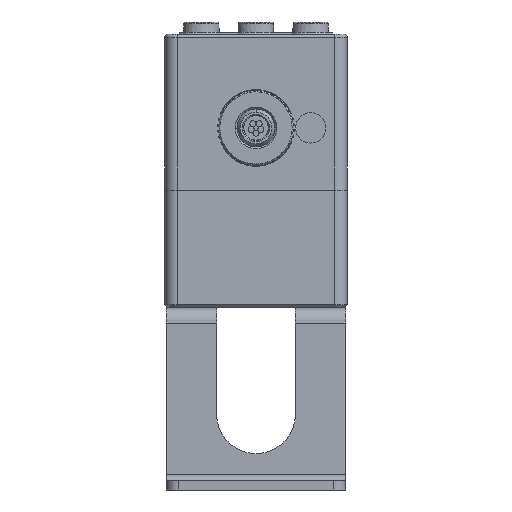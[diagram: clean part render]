
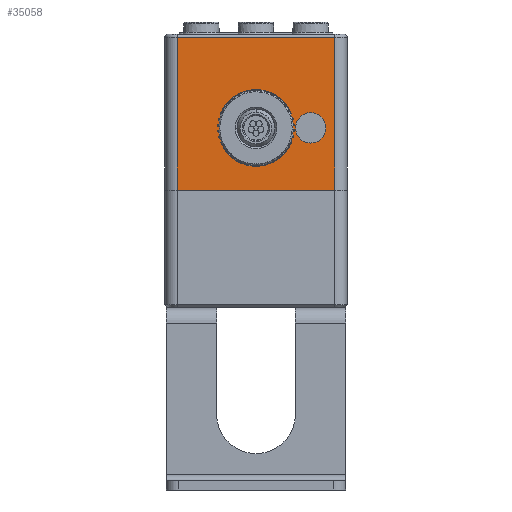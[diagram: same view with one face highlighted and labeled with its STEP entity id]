
A CAD part, front view. The second image highlights one B-rep face of the part: STEP entity #35058.
In plain terms, the highlighted planar face has unit normal (0, -1, 0).
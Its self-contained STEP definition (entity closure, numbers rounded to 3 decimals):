
#7877=DIRECTION('',(1.,0.,0.));
#7878=VECTOR('',#7877,26.);
#7879=CARTESIAN_POINT('',(-13.,-15.,4.5));
#7880=LINE('',#7879,#7878);
#7881=DIRECTION('',(0.,0.,-1.));
#7882=VECTOR('',#7881,25.2);
#7883=CARTESIAN_POINT('',(-13.,-15.,29.7));
#7884=LINE('',#7883,#7882);
#7885=DIRECTION('',(1.,0.,0.));
#7886=VECTOR('',#7885,26.);
#7887=CARTESIAN_POINT('',(-13.,-15.,29.7));
#7888=LINE('',#7887,#7886);
#7889=DIRECTION('',(0.,0.,-1.));
#7890=VECTOR('',#7889,25.2);
#7891=CARTESIAN_POINT('',(13.,-15.,29.7));
#7892=LINE('',#7891,#7890);
#7893=CARTESIAN_POINT('',(0.,-15.,14.75));
#7894=DIRECTION('',(0.,-1.,0.));
#7895=DIRECTION('',(-0.898,0.,-0.44));
#7896=AXIS2_PLACEMENT_3D('',#7893,#7894,#7895);
#7898=DIRECTION('',(-0.017,0.,-1.));
#7899=VECTOR('',#7898,2.35);
#7900=CARTESIAN_POINT('',(5.8,-15.,14.75));
#7901=LINE('',#7900,#7899);
#7902=DIRECTION('',(0.017,0.,-1.));
#7903=VECTOR('',#7902,2.35);
#7904=CARTESIAN_POINT('',(5.759,-15.,17.1));
#7905=LINE('',#7904,#7903);
#7906=CARTESIAN_POINT('',(0.,-15.,14.75));
#7907=DIRECTION('',(0.,-1.,0.));
#7908=DIRECTION('',(0.898,0.,0.44));
#7909=AXIS2_PLACEMENT_3D('',#7906,#7907,#7908);
#7911=DIRECTION('',(0.017,0.,1.));
#7912=VECTOR('',#7911,2.35);
#7913=CARTESIAN_POINT('',(-5.8,-15.,14.75));
#7914=LINE('',#7913,#7912);
#7915=DIRECTION('',(-0.017,0.,1.));
#7916=VECTOR('',#7915,2.35);
#7917=CARTESIAN_POINT('',(-5.759,-15.,12.4));
#7918=LINE('',#7917,#7916);
#7919=CARTESIAN_POINT('',(9.,-15.,14.75));
#7920=DIRECTION('',(0.,1.,0.));
#7921=DIRECTION('',(-1.,0.,0.));
#7922=AXIS2_PLACEMENT_3D('',#7919,#7920,#7921);
#7924=CARTESIAN_POINT('',(9.,-15.,14.75));
#7925=DIRECTION('',(0.,1.,0.));
#7926=DIRECTION('',(1.,0.,0.));
#7927=AXIS2_PLACEMENT_3D('',#7924,#7925,#7926);
#13556=CARTESIAN_POINT('',(-4.759,-15.,17.083));
#13557=DIRECTION('',(0.,1.,0.));
#13558=DIRECTION('',(-1.,0.,0.017));
#13559=AXIS2_PLACEMENT_3D('',#13556,#13557,#13558);
#13583=CARTESIAN_POINT('',(-4.759,-15.,12.417));
#13584=DIRECTION('',(0.,1.,0.));
#13585=DIRECTION('',(-0.898,0.,-0.44));
#13586=AXIS2_PLACEMENT_3D('',#13583,#13584,#13585);
#14701=CARTESIAN_POINT('',(4.759,-15.,17.083));
#14702=DIRECTION('',(0.,1.,0.));
#14703=DIRECTION('',(0.898,0.,0.44));
#14704=AXIS2_PLACEMENT_3D('',#14701,#14702,#14703);
#14726=CARTESIAN_POINT('',(4.759,-15.,12.417));
#14727=DIRECTION('',(0.,1.,0.));
#14728=DIRECTION('',(1.,0.,-0.017));
#14729=AXIS2_PLACEMENT_3D('',#14726,#14727,#14728);
#23050=CARTESIAN_POINT('',(-13.,-15.,4.5));
#23051=CARTESIAN_POINT('',(13.,-15.,4.5));
#23052=VERTEX_POINT('',#23050);
#23053=VERTEX_POINT('',#23051);
#23074=CARTESIAN_POINT('',(13.,-15.,29.7));
#23075=VERTEX_POINT('',#23074);
#23080=CARTESIAN_POINT('',(-13.,-15.,29.7));
#23081=VERTEX_POINT('',#23080);
#23170=CARTESIAN_POINT('',(6.643,-15.,14.75));
#23171=CARTESIAN_POINT('',(11.357,-15.,14.75));
#23172=VERTEX_POINT('',#23170);
#23173=VERTEX_POINT('',#23171);
#23382=CARTESIAN_POINT('',(5.8,-15.,14.75));
#23383=VERTEX_POINT('',#23382);
#23393=CARTESIAN_POINT('',(5.759,-15.,17.1));
#23394=VERTEX_POINT('',#23393);
#23395=CARTESIAN_POINT('',(5.759,-15.,12.4));
#23396=VERTEX_POINT('',#23395);
#23397=CARTESIAN_POINT('',(5.657,-15.,17.523));
#23398=VERTEX_POINT('',#23397);
#23399=CARTESIAN_POINT('',(5.657,-15.,11.977));
#23400=VERTEX_POINT('',#23399);
#23408=CARTESIAN_POINT('',(-5.657,-15.,17.523));
#23409=VERTEX_POINT('',#23408);
#23410=CARTESIAN_POINT('',(-5.657,-15.,11.977));
#23411=VERTEX_POINT('',#23410);
#23421=CARTESIAN_POINT('',(-5.759,-15.,12.4));
#23422=CARTESIAN_POINT('',(-5.8,-15.,14.75));
#23423=VERTEX_POINT('',#23421);
#23424=VERTEX_POINT('',#23422);
#23425=CARTESIAN_POINT('',(-5.759,-15.,17.1));
#23426=VERTEX_POINT('',#23425);
#35017=CARTESIAN_POINT('',(-15.,-15.,2.9));
#35018=DIRECTION('',(0.,-1.,0.));
#35019=DIRECTION('',(1.,0.,0.));
#35020=AXIS2_PLACEMENT_3D('',#35017,#35018,#35019);
#35021=PLANE('',#35020);
#35022=ORIENTED_EDGE('',*,*,#33702,.F.);
#35024=ORIENTED_EDGE('',*,*,#35023,.F.);
#35026=ORIENTED_EDGE('',*,*,#35025,.T.);
#35027=ORIENTED_EDGE('',*,*,#35009,.T.);
#35028=EDGE_LOOP('',(#35022,#35024,#35026,#35027));
#35029=FACE_OUTER_BOUND('',#35028,.F.);
#35031=ORIENTED_EDGE('',*,*,#35030,.T.);
#35033=ORIENTED_EDGE('',*,*,#35032,.F.);
#35035=ORIENTED_EDGE('',*,*,#35034,.F.);
#35037=ORIENTED_EDGE('',*,*,#35036,.F.);
#35039=ORIENTED_EDGE('',*,*,#35038,.F.);
#35041=ORIENTED_EDGE('',*,*,#35040,.T.);
#35043=ORIENTED_EDGE('',*,*,#35042,.F.);
#35045=ORIENTED_EDGE('',*,*,#35044,.F.);
#35047=ORIENTED_EDGE('',*,*,#35046,.F.);
#35049=ORIENTED_EDGE('',*,*,#35048,.F.);
#35050=EDGE_LOOP('',(#35031,#35033,#35035,#35037,#35039,#35041,#35043,#35045,
#35047,#35049));
#35051=FACE_BOUND('',#35050,.F.);
#35053=ORIENTED_EDGE('',*,*,#35052,.F.);
#35055=ORIENTED_EDGE('',*,*,#35054,.F.);
#35056=EDGE_LOOP('',(#35053,#35055));
#35057=FACE_BOUND('',#35056,.F.);
#35058=ADVANCED_FACE('',(#35029,#35051,#35057),#35021,.T.);
#7897=CIRCLE('',#7896,6.3);
#7910=CIRCLE('',#7909,6.3);
#7923=CIRCLE('',#7922,2.357);
#7928=CIRCLE('',#7927,2.357);
#13560=CIRCLE('',#13559,1.);
#13587=CIRCLE('',#13586,1.);
#14705=CIRCLE('',#14704,1.);
#14730=CIRCLE('',#14729,1.);
#33702=EDGE_CURVE('',#23052,#23053,#7880,.T.);
#35009=EDGE_CURVE('',#23075,#23053,#7892,.T.);
#35023=EDGE_CURVE('',#23081,#23052,#7884,.T.);
#35025=EDGE_CURVE('',#23081,#23075,#7888,.T.);
#35030=EDGE_CURVE('',#23411,#23400,#7897,.T.);
#35032=EDGE_CURVE('',#23396,#23400,#14730,.T.);
#35034=EDGE_CURVE('',#23383,#23396,#7901,.T.);
#35036=EDGE_CURVE('',#23394,#23383,#7905,.T.);
#35038=EDGE_CURVE('',#23398,#23394,#14705,.T.);
#35040=EDGE_CURVE('',#23398,#23409,#7910,.T.);
#35042=EDGE_CURVE('',#23426,#23409,#13560,.T.);
#35044=EDGE_CURVE('',#23424,#23426,#7914,.T.);
#35046=EDGE_CURVE('',#23423,#23424,#7918,.T.);
#35048=EDGE_CURVE('',#23411,#23423,#13587,.T.);
#35052=EDGE_CURVE('',#23172,#23173,#7923,.T.);
#35054=EDGE_CURVE('',#23173,#23172,#7928,.T.);
